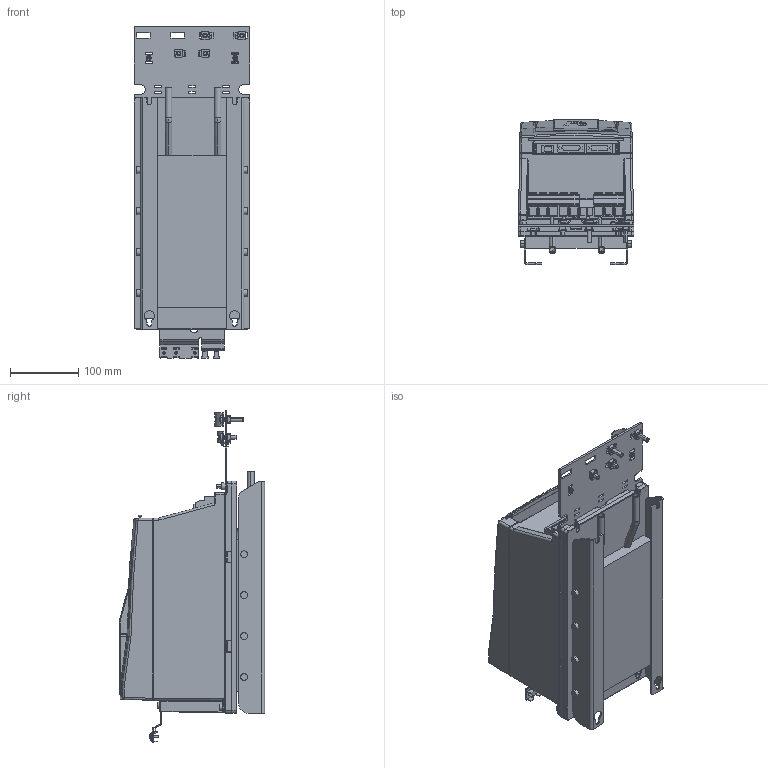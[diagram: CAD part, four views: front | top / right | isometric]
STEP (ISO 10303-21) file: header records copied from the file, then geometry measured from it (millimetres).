
FILE_DESCRIPTION (( 'STEP AP214' ), '1' );
FILE_NAME ('F6-3 TW0-A031.STEP', '2024-08-27T09:46:01', ( '' ), ( '' ), 'SwSTEP 2.0', 'SolidWorks 2022', '' );
FILE_SCHEMA (( 'AUTOMOTIVE_DESIGN' ));
Length unit declared in the file: millimetre
Products named in the file (13): Kundenmodell^10068344_000; Kundenmodell^10047114_000; Kundenmodell^10035736_000; Kundenmodell^10061030_000; Kundenmodell^10059764_000; 10047114_000_Kundenmodell; 10040482_000_Kundenmodell; Kundenmodell^10040482_000; 10035736_000_Kundenmodell; 10061030_000_Kundenmodell; 10059764_000_Blindabdeckung (Kundenmodell); 10068344_000_Leistungsteil TR0 (Kundenmodell); F6-3 TW0-A031
Assembly tree (12 placements, depth 4):
  F6-3 TW0-A031
    10068344_000_Leistungsteil TR0 (Kundenmodell)
      Kundenmodell^10068344_000
    10040482_000_Kundenmodell
      Kundenmodell^10040482_000
    10035736_000_Kundenmodell
      10059764_000_Blindabdeckung (Kundenmodell)
        Kundenmodell^10059764_000
      Kundenmodell^10035736_000
    10061030_000_Kundenmodell
      Kundenmodell^10061030_000
    10047114_000_Kundenmodell
      Kundenmodell^10047114_000
Bounding box: 170 x 212.9 x 486.8 mm (x, y, z)
Volume: 8141033.8 mm3; surface area: 704137.8 mm2
Topology: 16 solids, 21 shells, 3248 faces, 8504 edges, 5375 vertices
Faces by surface type: plane 1502, cylinder 1092, bspline 372, cone 119, torus 109, sphere 54
Entity records: 113953 total; most frequent: CARTESIAN_POINT 31769, ORIENTED_EDGE 16888, DIRECTION 15405, EDGE_CURVE 8444, VERTEX_POINT 5375, AXIS2_PLACEMENT_3D 5350, VECTOR 4705, LINE 4705
